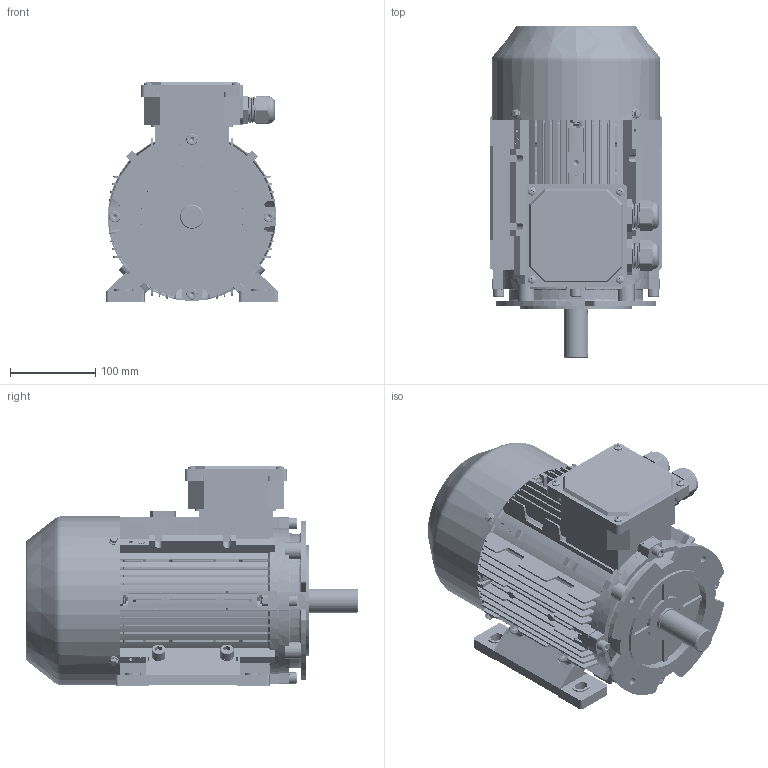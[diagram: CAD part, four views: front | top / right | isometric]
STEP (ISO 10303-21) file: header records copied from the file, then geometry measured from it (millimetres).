
FILE_DESCRIPTION (( 'STEP AP203' ), '1' );
FILE_NAME ('ME3-100B34B 3D.STEP', '2024-07-04T07:45:50', ( 'User' ), ( 'China' ), 'SwSTEP 2.0', 'SolidWorks 2018', '' );
FILE_SCHEMA (( 'CONFIG_CONTROL_DESIGN' ));
Length unit declared in the file: millimetre
Products named in the file (24): ME3-100B34B  3D; wave single coil spring lock washers gb_GB_FASTENER_WASHER_WSLW 10; circlips for shaft--type b gb_GB_CONNECTING_PIECE_RINGS_CSB 22; hexagon socket head cap screws gb_GB_FASTENER_SCREWS_HSHCS M10X30-S; MS112-132 諉盄碟釱; ME3-100 儂褲; hex nuts, style 2-grades ab gb_GB_HEXAGON_TYPE13 M10 Normal Style-S; M24 蹟杶; ME3-100菁褐; cross recessed pan head screws gb_GB_CROSS_SCREWS_TYPE1 M5X8-8  H type-S; M24 蹟杶簸; ME3-100ヶ傷裔B3; MS112-132諉盄碟裔; hexagon socket head cap screws gb_GB_FASTENER_SCREWS_HSHCS M8X35-S; deep groove ball bearings gb_Rolling bearings 6206 GB 276-94; ME3-100 瑞欶; hex nuts, style 2-grades ab gb_GB_HEXAGON_TYPE13 M8 Normal Style-S; ME3-100转轴（206.5）; hex flange bolts-heavy grade b gb_GB_FASTENER_BOLT_HFBB M5X10-S; wave single coil spring lock washers gb_GB_FASTENER_WASHER_WSLW 8; 蚐猾45X30X7; ME3-100B14B; hexagon socket head cap screws gb_GB_FASTENER_SCREWS_HSHCS M8X25-S; ME 3 100 瑞珔
Assembly tree (63 placements, depth 2):
  ME3-100B34B  3D
    ME3-100 儂褲
    ME3-100菁褐  x2
    ME3-100ヶ傷裔B3
    deep groove ball bearings gb_Rolling bearings 6206 GB 276-94  x2
    ME3-100转轴（206.5）
    蚐猾45X30X7
    ME 3 100 瑞珔
    circlips for shaft--type b gb_GB_CONNECTING_PIECE_RINGS_CSB 22
    MS112-132 諉盄碟釱
    M24 蹟杶  x2
    M24 蹟杶簸  x2
    hexagon socket head cap screws gb_GB_FASTENER_SCREWS_HSHCS M8X35-S  x7
    hex nuts, style 2-grades ab gb_GB_HEXAGON_TYPE13 M8 Normal Style-S  x9
    wave single coil spring lock washers gb_GB_FASTENER_WASHER_WSLW 8  x4
    hexagon socket head cap screws gb_GB_FASTENER_SCREWS_HSHCS M8X25-S
    wave single coil spring lock washers gb_GB_FASTENER_WASHER_WSLW 10  x4
    hexagon socket head cap screws gb_GB_FASTENER_SCREWS_HSHCS M10X30-S  x4
    hex nuts, style 2-grades ab gb_GB_HEXAGON_TYPE13 M10 Normal Style-S  x4
    cross recessed pan head screws gb_GB_CROSS_SCREWS_TYPE1 M5X8-8  H type-S  x8
    MS112-132諉盄碟裔
    ME3-100 瑞欶
    hex flange bolts-heavy grade b gb_GB_FASTENER_BOLT_HFBB M5X10-S  x4
    ME3-100B14B
Bounding box: 201.21 x 388.69 x 258 mm (x, y, z)
Volume: 2089963.9 mm3; surface area: 1219759.3 mm2
Topology: 63 solids, 64 shells, 8647 faces, 20423 edges, 11873 vertices
Faces by surface type: cone 3407, cylinder 2647, plane 2168, torus 261, bspline 84, sphere 80
Entity records: 135387 total; most frequent: CARTESIAN_POINT 35339, ORIENTED_EDGE 20470, DIRECTION 19984, EDGE_CURVE 10235, AXIS2_PLACEMENT_3D 7085, VERTEX_POINT 6366, LINE 5814, VECTOR 5814
